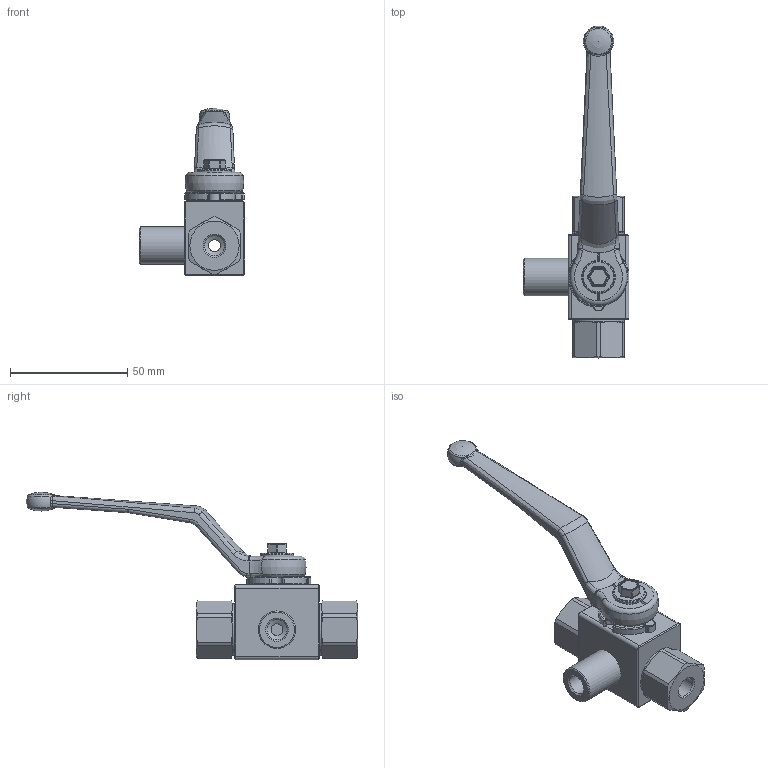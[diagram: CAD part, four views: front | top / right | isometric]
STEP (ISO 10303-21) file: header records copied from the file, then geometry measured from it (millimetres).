
FILE_DESCRIPTION( ( 'Unknown' ), '1' );
FILE_NAME( 'H:/PISTER/3D-MODELLE/BK3 stp/BK3 DN4 G1_8.stp', 'Unknown', ( 'Unknown' ), ( 'Unknown' ), 'PSStep 14.0', 'Unknown', ' ' );
FILE_SCHEMA( ( 'AUTOMOTIVE_DESIGN { 1 0 10303 214 1 1 1 1 }' ) );
Length unit declared in the file: millimetre
Products named in the file (10): Assem1; 03-008-002-oa3; 04-004-023-oa4; 06-008-059-oa9; 09-09-002; 58-28740-07-oa10; Griff_SW9; 58-0933-133; 01-008-015-oa11; 04-004-018-oa12
Assembly tree (9 placements, depth 2):
  Assem1
    03-008-002-oa3
    04-004-023-oa4
    06-008-059-oa9
    09-09-002
    58-28740-07-oa10
    Griff_SW9
    58-0933-133
    01-008-015-oa11
    04-004-018-oa12
Bounding box: 45.2 x 141.5 x 71.4 mm (x, y, z)
Volume: 34638.4 mm3; surface area: 23501.7 mm2
Topology: 9 solids, 9 shells, 379 faces, 943 edges, 566 vertices
Faces by surface type: cylinder 132, plane 119, bspline 42, torus 37, cone 29, sphere 20
Full cylindrical faces by diameter (mm): 4.134 x1, 4.98 x1, 5 x4, 8.566 x5, 14 x2, 14.3 x1, 16 x2, 21 x2, 22 x2, 22.5 x2
Entity records: 15552 total; most frequent: CARTESIAN_POINT 3929, DIRECTION 1809, ORIENTED_EDGE 1692, EDGE_CURVE 846, AXIS2_PLACEMENT_3D 734, VERTEX_POINT 539, EDGE_LOOP 450, FACE_OUTER_BOUND 410
